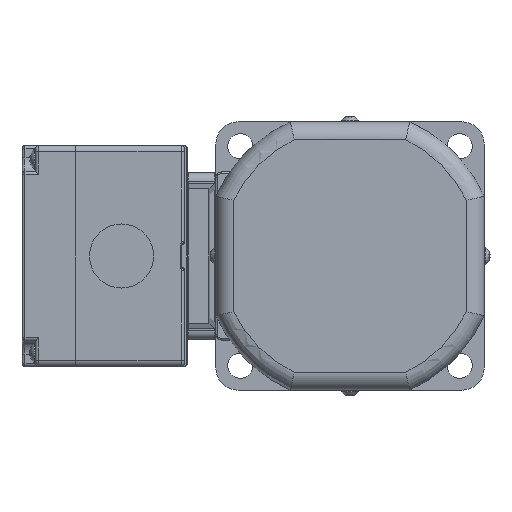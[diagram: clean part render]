
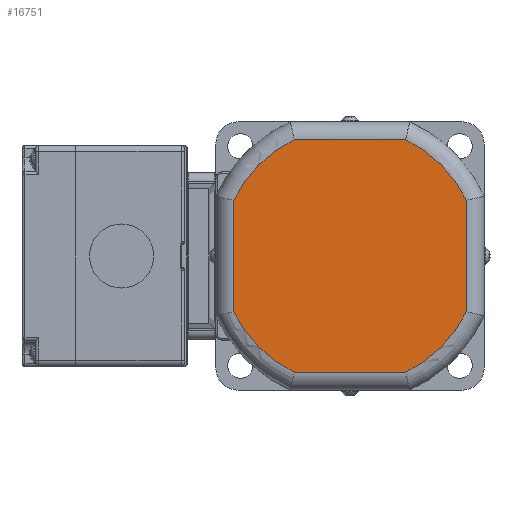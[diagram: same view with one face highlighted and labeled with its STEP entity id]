
A CAD part, left-side view. The second image highlights one B-rep face of the part: STEP entity #16751.
In plain terms, the highlighted planar face has unit normal (-1, 0, 0).
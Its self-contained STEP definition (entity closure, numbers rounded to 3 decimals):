
#684=LINE('',#26598,#2055);
#687=LINE('',#26618,#2058);
#688=LINE('',#26671,#2059);
#689=LINE('',#26688,#2060);
#2055=VECTOR('',#20434,37.393);
#2058=VECTOR('',#20439,37.393);
#2059=VECTOR('',#20454,37.393);
#2060=VECTOR('',#20457,37.393);
#3925=FACE_OUTER_BOUND('',#4931,.T.);
#4931=EDGE_LOOP('',(#11749,#11750,#11751,#11752,#11753,#11754,#11755,#11756));
#5916=CIRCLE('',#17913,43.25);
#5917=CIRCLE('',#17917,43.25);
#5920=CIRCLE('',#17921,43.25);
#5921=CIRCLE('',#17925,43.25);
#6893=VERTEX_POINT('',#26548);
#6895=VERTEX_POINT('',#26565);
#6897=VERTEX_POINT('',#26583);
#6899=VERTEX_POINT('',#26602);
#6900=VERTEX_POINT('',#26620);
#6901=VERTEX_POINT('',#26638);
#6902=VERTEX_POINT('',#26656);
#6903=VERTEX_POINT('',#26673);
#8698=EDGE_CURVE('',#6895,#6893,#5916,.T.);
#8700=EDGE_CURVE('',#6897,#6895,#684,.T.);
#8704=EDGE_CURVE('',#6893,#6899,#687,.T.);
#8706=EDGE_CURVE('',#6900,#6897,#5917,.T.);
#8710=EDGE_CURVE('',#6899,#6901,#5920,.T.);
#8712=EDGE_CURVE('',#6902,#6900,#688,.T.);
#8714=EDGE_CURVE('',#6901,#6903,#689,.T.);
#8715=EDGE_CURVE('',#6903,#6902,#5921,.T.);
#11749=ORIENTED_EDGE('',*,*,#8714,.F.);
#11750=ORIENTED_EDGE('',*,*,#8710,.F.);
#11751=ORIENTED_EDGE('',*,*,#8704,.F.);
#11752=ORIENTED_EDGE('',*,*,#8698,.F.);
#11753=ORIENTED_EDGE('',*,*,#8700,.F.);
#11754=ORIENTED_EDGE('',*,*,#8706,.F.);
#11755=ORIENTED_EDGE('',*,*,#8712,.F.);
#11756=ORIENTED_EDGE('',*,*,#8715,.F.);
#15184=PLANE('',#17927);
#16751=ADVANCED_FACE('',(#3925),#15184,.F.);
#17913=AXIS2_PLACEMENT_3D('',#26580,#20430,#20431);
#17917=AXIS2_PLACEMENT_3D('',#26635,#20442,#20443);
#17921=AXIS2_PLACEMENT_3D('',#26654,#20450,#20451);
#17925=AXIS2_PLACEMENT_3D('',#26690,#20460,#20461);
#17927=AXIS2_PLACEMENT_3D('',#26692,#20464,#20465);
#20430=DIRECTION('center_axis',(1.,0.,0.));
#20431=DIRECTION('ref_axis',(0.,0.707,-0.707));
#20434=DIRECTION('',(0.,1.,0.));
#20439=DIRECTION('',(0.,0.,1.));
#20442=DIRECTION('center_axis',(1.,0.,0.));
#20443=DIRECTION('ref_axis',(0.,-0.707,-0.707));
#20450=DIRECTION('center_axis',(1.,0.,0.));
#20451=DIRECTION('ref_axis',(0.,0.707,0.707));
#20454=DIRECTION('',(0.,0.,-1.));
#20457=DIRECTION('',(0.,-1.,0.));
#20460=DIRECTION('center_axis',(1.,0.,0.));
#20461=DIRECTION('ref_axis',(0.,-0.707,0.707));
#20464=DIRECTION('center_axis',(1.,0.,0.));
#20465=DIRECTION('ref_axis',(0.,1.,0.));
#26548=CARTESIAN_POINT('',(-17.8,39.,-18.697));
#26565=CARTESIAN_POINT('',(-17.8,18.697,-39.));
#26580=CARTESIAN_POINT('Origin',(-17.8,0.,
0.));
#26583=CARTESIAN_POINT('',(-17.8,-18.697,-39.));
#26598=CARTESIAN_POINT('',(-17.8,-18.697,-39.));
#26602=CARTESIAN_POINT('',(-17.8,39.,18.697));
#26618=CARTESIAN_POINT('',(-17.8,39.,-18.697));
#26620=CARTESIAN_POINT('',(-17.8,-39.,-18.697));
#26635=CARTESIAN_POINT('Origin',(-17.8,0.,
0.));
#26638=CARTESIAN_POINT('',(-17.8,18.697,39.));
#26654=CARTESIAN_POINT('Origin',(-17.8,0.,
0.));
#26656=CARTESIAN_POINT('',(-17.8,-39.,18.697));
#26671=CARTESIAN_POINT('',(-17.8,-39.,18.697));
#26673=CARTESIAN_POINT('',(-17.8,-18.697,39.));
#26688=CARTESIAN_POINT('',(-17.8,18.697,39.));
#26690=CARTESIAN_POINT('Origin',(-17.8,0.,
0.));
#26692=CARTESIAN_POINT('Origin',(-17.8,0.,
0.));
